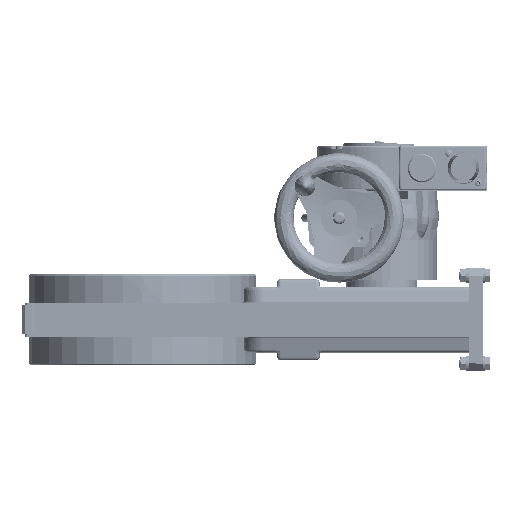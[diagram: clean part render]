
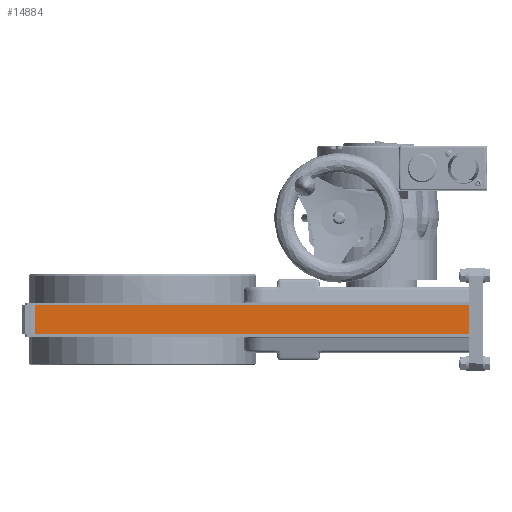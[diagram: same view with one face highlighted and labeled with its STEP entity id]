
A CAD part, front view. The second image highlights one B-rep face of the part: STEP entity #14884.
In plain terms, the highlighted planar face has unit normal (0, -1, 0) as drawn and (-1, 0, 0) by its records, which use the part's own axes.
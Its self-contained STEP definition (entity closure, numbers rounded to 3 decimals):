
#7724=FACE_OUTER_BOUND('',#19207,.T.);
#9184=LINE('',#53559,#11262);
#9185=LINE('',#53561,#11263);
#9186=LINE('',#53563,#11264);
#9187=LINE('',#53565,#11265);
#11262=VECTOR('',#43718,1.);
#11263=VECTOR('',#43721,1.);
#11264=VECTOR('',#43722,1.);
#11265=VECTOR('',#43723,1.);
#13522=PLANE('',#39894);
#14884=ADVANCED_FACE('',(#7724),#13522,.T.);
#19207=EDGE_LOOP('',(#22136,#22137,#22138,#22139));
#22136=ORIENTED_EDGE('',*,*,#33811,.F.);
#22137=ORIENTED_EDGE('',*,*,#33810,.F.);
#22138=ORIENTED_EDGE('',*,*,#33812,.T.);
#22139=ORIENTED_EDGE('',*,*,#33813,.T.);
#30779=VERTEX_POINT('',#53556);
#30780=VERTEX_POINT('',#53558);
#30781=VERTEX_POINT('',#53562);
#30782=VERTEX_POINT('',#53564);
#33810=EDGE_CURVE('',#30780,#30779,#9184,.T.);
#33811=EDGE_CURVE('',#30779,#30781,#9185,.T.);
#33812=EDGE_CURVE('',#30780,#30782,#9186,.T.);
#33813=EDGE_CURVE('',#30782,#30781,#9187,.T.);
#39894=AXIS2_PLACEMENT_3D('',#53566,#43724,#43725);
#43718=DIRECTION('',(0.,0.,-1.));
#43721=DIRECTION('',(0.,1.,0.));
#43722=DIRECTION('',(0.,1.,0.));
#43723=DIRECTION('',(0.,0.,-1.));
#43724=DIRECTION('',(-1.,0.,0.));
#43725=DIRECTION('',(0.,-1.,0.));
#53556=CARTESIAN_POINT('',(0.,0.,0.));
#53558=CARTESIAN_POINT('',(0.,0.,335.));
#53559=CARTESIAN_POINT('',(0.,0.,335.));
#53561=CARTESIAN_POINT('',(0.,0.,0.));
#53562=CARTESIAN_POINT('',(0.,22.45,0.));
#53563=CARTESIAN_POINT('',(0.,0.,335.));
#53564=CARTESIAN_POINT('',(0.,22.45,335.));
#53565=CARTESIAN_POINT('',(0.,22.45,335.));
#53566=CARTESIAN_POINT('',(0.,0.,335.));
